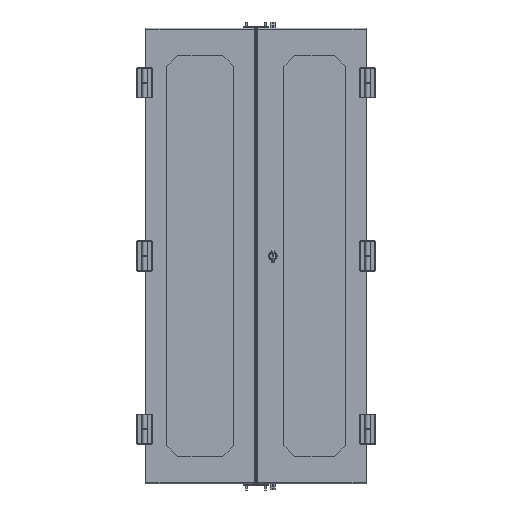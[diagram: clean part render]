
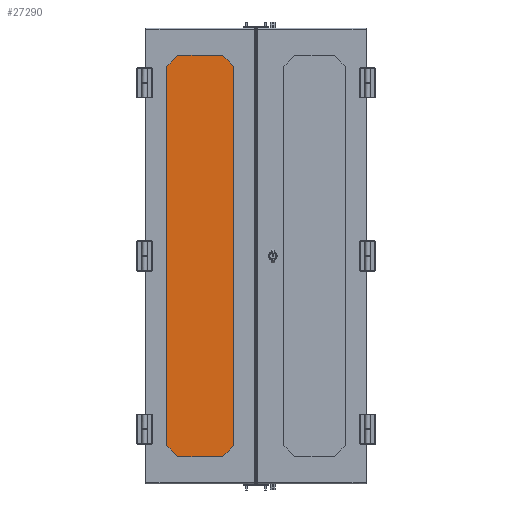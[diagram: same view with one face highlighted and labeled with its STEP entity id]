
A CAD part, front view. The second image highlights one B-rep face of the part: STEP entity #27290.
In plain terms, the highlighted planar face has unit normal (0, -1, 0).
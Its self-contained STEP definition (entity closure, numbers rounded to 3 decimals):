
#1432=LINE('',#40227,#3392);
#1436=LINE('',#40236,#3396);
#1439=LINE('',#40242,#3399);
#1442=LINE('',#40248,#3402);
#3392=VECTOR('',#33028,1000.);
#3396=VECTOR('',#33034,1000.);
#3399=VECTOR('',#33039,1000.);
#3402=VECTOR('',#33044,1000.);
#5709=PLANE('',#30394);
#6533=ORIENTED_EDGE('',*,*,#14974,.T.);
#6534=ORIENTED_EDGE('',*,*,#14978,.T.);
#6535=ORIENTED_EDGE('',*,*,#14981,.T.);
#6536=ORIENTED_EDGE('',*,*,#14984,.T.);
#14974=EDGE_CURVE('',#19207,#19208,#1432,.T.);
#14978=EDGE_CURVE('',#19208,#19211,#1436,.T.);
#14981=EDGE_CURVE('',#19211,#19213,#1439,.T.);
#14984=EDGE_CURVE('',#19213,#19207,#1442,.T.);
#19207=VERTEX_POINT('',#40228);
#19208=VERTEX_POINT('',#40229);
#19211=VERTEX_POINT('',#40237);
#19213=VERTEX_POINT('',#40243);
#23265=EDGE_LOOP('',(#6533,#6534,#6535,#6536));
#25049=FACE_BOUND('',#23265,.T.);
#27290=ADVANCED_FACE('',(#25049),#5709,.T.);
#30394=AXIS2_PLACEMENT_3D('',#40251,#33048,#33049);
#33028=DIRECTION('',(1.,0.,0.));
#33034=DIRECTION('',(0.,0.,1.));
#33039=DIRECTION('',(-1.,0.,0.));
#33044=DIRECTION('',(0.,0.,-1.));
#33048=DIRECTION('',(0.,-1.,0.));
#33049=DIRECTION('',(0.,0.,-1.));
#40227=CARTESIAN_POINT('',(90.488,0.,-480.225));
#40228=CARTESIAN_POINT('',(-90.488,0.,-480.225));
#40229=CARTESIAN_POINT('',(90.488,0.,-480.225));
#40236=CARTESIAN_POINT('',(90.488,0.,-480.225));
#40237=CARTESIAN_POINT('',(90.488,0.,480.225));
#40242=CARTESIAN_POINT('',(90.488,0.,480.225));
#40243=CARTESIAN_POINT('',(-90.488,0.,480.225));
#40248=CARTESIAN_POINT('',(-90.488,0.,480.225));
#40251=CARTESIAN_POINT('',(90.488,0.,-480.225));
